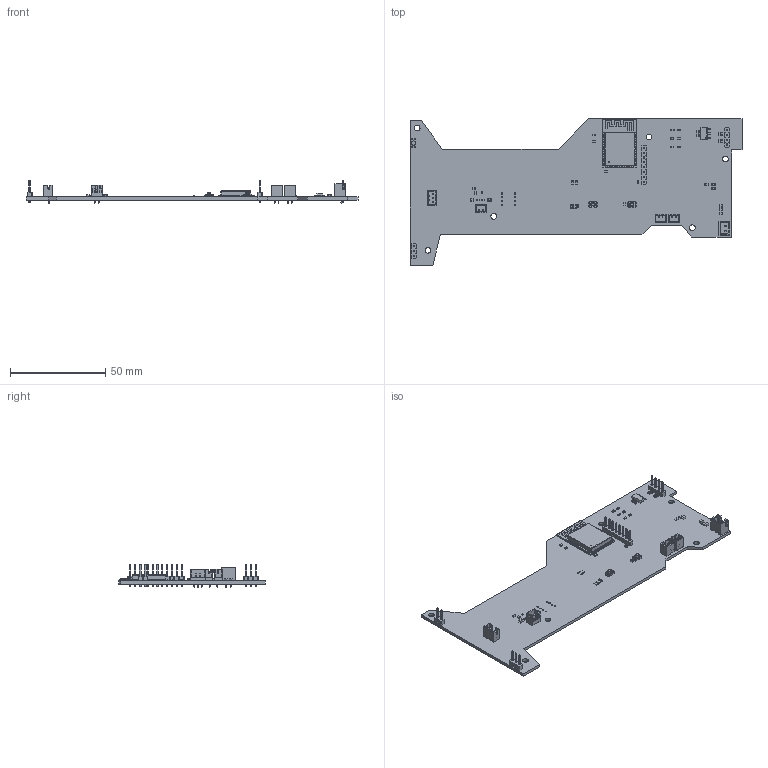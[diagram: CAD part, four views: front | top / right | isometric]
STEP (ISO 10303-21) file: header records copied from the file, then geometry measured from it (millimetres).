
FILE_DESCRIPTION(('KiCad electronic assembly'),'2;1');
FILE_NAME('GLO_Nearly_finalized.step','2025-03-25T23:19:12',('Pcbnew'),( 'Kicad'),'Open CASCADE STEP processor 7.8','KiCad to STEP converter' ,'Unknown');
FILE_SCHEMA(('AUTOMOTIVE_DESIGN { 1 0 10303 214 1 1 1 1 }'));
Length unit declared in the file: millimetre
Products named in the file (32): GLO_Nearly_finalized 1; R_0805_2012Metric; RMCF0603FT5R10; RMCF0603JG24R0; JST_PH_B2B-PH-K_1x02_P2.00mm_Vertical; JST_B2B_PH_K; C_0805_2012Metric; C_0603_1608Metric; PinHeader_1x04_P2.54mm_Vertical; PinHeader_1x04_P254mm_Vertical; SOT223_AZ1117I_6P5X3P5_DIO; part; ESP32-S3-WROOM-1; KMR441GLFS; LTST-C191KGKT; JST_XH_B2B-XH-A_1x02_P2.50mm_Vertical; JST_B2B_XH_A; PinHeader_1x08_P2.54mm_Vertical; PinHeader_1x08_P254mm_Vertical; PinHeader_1x02_P2.54mm_Vertical; PinHeader_1x02_P254mm_Vertical; JST_PH_B3B-PH-K_1x03_P2.00mm_Vertical; JST_B3B_PH_K; PinHeader_1x03_P2.54mm_Vertical; PinHeader_1x03_P254mm_Vertical; GLO_Nearly_finalized_PCB
Assembly tree (61 placements, depth 3):
  GLO_Nearly_finalized 1
    R_0805_2012Metric  x7
      R_0805_2012Metric
    RMCF0603FT5R10  x8
      RMCF0603JG24R0
    JST_PH_B2B-PH-K_1x02_P2.00mm_Vertical  x3
      JST_B2B_PH_K
    C_0805_2012Metric  x5
      C_0805_2012Metric
    C_0603_1608Metric  x7
      C_0603_1608Metric
    PinHeader_1x04_P2.54mm_Vertical
      PinHeader_1x04_P254mm_Vertical
    SOT223_AZ1117I_6P5X3P5_DIO
      part
    ESP32-S3-WROOM-1
      ESP32-S3-WROOM-1
    KMR441GLFS  x2
      KMR441GLFS
    LTST-C191KGKT  x5
      LTST-C191KGKT
    JST_XH_B2B-XH-A_1x02_P2.50mm_Vertical
      JST_B2B_XH_A
    PinHeader_1x08_P2.54mm_Vertical
      PinHeader_1x08_P254mm_Vertical
    PinHeader_1x02_P2.54mm_Vertical
      PinHeader_1x02_P254mm_Vertical
    JST_PH_B3B-PH-K_1x03_P2.00mm_Vertical
      JST_B3B_PH_K
    PinHeader_1x03_P2.54mm_Vertical
      PinHeader_1x03_P254mm_Vertical
    GLO_Nearly_finalized_PCB
Bounding box: 174.6 x 77 x 11.94 mm (x, y, z)
Volume: 16816.2 mm3; surface area: 24595.9 mm2
Topology: 136 solids, 136 shells, 4176 faces, 10540 edges, 6722 vertices
Faces by surface type: plane 3506, cylinder 584, bspline 60, cone 22, sphere 4
Full cylindrical faces by diameter (mm): 0.175 x1, 0.2 x4, 0.5 x1, 0.75 x9, 0.762 x8, 1 x19, 3 x6
Entity records: 96074 total; most frequent: CARTESIAN_POINT 14858, ORIENTED_EDGE 13382, DIRECTION 12690, EDGE_CURVE 6691, LINE 6028, VECTOR 6028, VERTEX_POINT 4208, AXIS2_PLACEMENT_3D 3331
